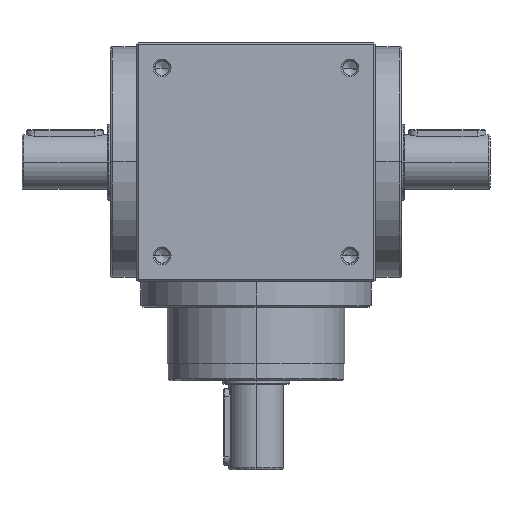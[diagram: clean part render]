
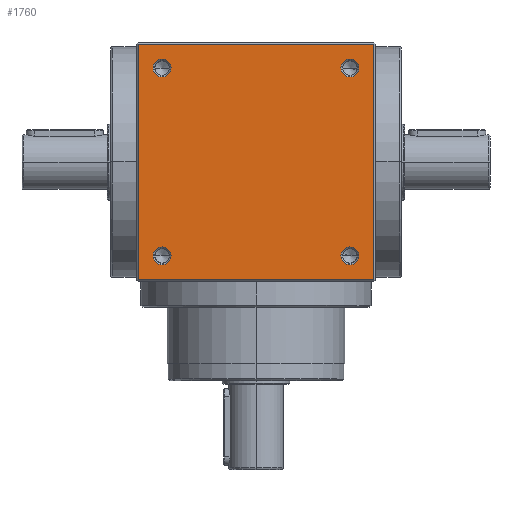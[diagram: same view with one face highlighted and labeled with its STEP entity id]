
A CAD part, top view. The second image highlights one B-rep face of the part: STEP entity #1760.
In plain terms, the highlighted planar face has unit normal (0, 0, 1).
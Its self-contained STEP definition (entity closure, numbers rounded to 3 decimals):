
#70 = EDGE_CURVE ( 'NONE', #9648, #7187, #508, .T. ) ;
#120 = EDGE_CURVE ( 'NONE', #9140, #10129, #7684, .T. ) ;
#138 = AXIS2_PLACEMENT_3D ( 'NONE', #9681, #3133, #10357 ) ;
#164 = DIRECTION ( 'NONE',  ( -1., 0., 0. ) ) ;
#189 = CARTESIAN_POINT ( 'NONE',  ( 69., 69., 70. ) ) ;
#233 = CIRCLE ( 'NONE', #8392, 5.25 ) ;
#304 = EDGE_LOOP ( 'NONE', ( #4459, #3846 ) ) ;
#321 = CARTESIAN_POINT ( 'NONE',  ( -69., -69., 70. ) ) ;
#342 = FACE_BOUND ( 'NONE', #304, .T. ) ;
#411 = CIRCLE ( 'NONE', #3988, 5.25 ) ;
#493 = AXIS2_PLACEMENT_3D ( 'NONE', #1849, #2549, #2483 ) ;
#508 = CIRCLE ( 'NONE', #6053, 5.25 ) ;
#513 = LINE ( 'NONE', #6973, #646 ) ;
#521 = ORIENTED_EDGE ( 'NONE', *, *, #3351, .T. ) ;
#568 = DIRECTION ( 'NONE',  ( 0., -1., 0. ) ) ;
#623 = AXIS2_PLACEMENT_3D ( 'NONE', #890, #2510, #1735 ) ;
#646 = VECTOR ( 'NONE', #568, 1000. ) ;
#654 = EDGE_LOOP ( 'NONE', ( #4299, #10071 ) ) ;
#666 = VECTOR ( 'NONE', #8970, 1000. ) ;
#779 = VERTEX_POINT ( 'NONE', #7558 ) ;
#824 = CIRCLE ( 'NONE', #6396, 5.25 ) ;
#890 = CARTESIAN_POINT ( 'NONE',  ( 0., 0., 70. ) ) ;
#951 = DIRECTION ( 'NONE',  ( -1., 0., 0. ) ) ;
#1065 = DIRECTION ( 'NONE',  ( 0., 0., -1. ) ) ;
#1279 = VECTOR ( 'NONE', #3611, 1000. ) ;
#1415 = DIRECTION ( 'NONE',  ( -1., 0., 0. ) ) ;
#1593 = EDGE_CURVE ( 'NONE', #10129, #9140, #4149, .T. ) ;
#1656 = ORIENTED_EDGE ( 'NONE', *, *, #4278, .T. ) ;
#1735 = DIRECTION ( 'NONE',  ( -1., 0., 0. ) ) ;
#1760 = ADVANCED_FACE ( 'NONE', ( #7394, #3910, #9845, #7646, #342 ), #9743, .F. ) ;
#1849 = CARTESIAN_POINT ( 'NONE',  ( -55., -55., 70. ) ) ;
#1940 = CARTESIAN_POINT ( 'NONE',  ( -60.25, -55., 70. ) ) ;
#2207 = EDGE_LOOP ( 'NONE', ( #8191, #9491, #1656, #4601 ) ) ;
#2268 = AXIS2_PLACEMENT_3D ( 'NONE', #8125, #4128, #4190 ) ;
#2483 = DIRECTION ( 'NONE',  ( -1., 0., 0. ) ) ;
#2493 = DIRECTION ( 'NONE',  ( -1., 0., 0. ) ) ;
#2510 = DIRECTION ( 'NONE',  ( 0., 0., -1. ) ) ;
#2530 = ORIENTED_EDGE ( 'NONE', *, *, #2875, .T. ) ;
#2534 = CARTESIAN_POINT ( 'NONE',  ( 55., 55., 70. ) ) ;
#2549 = DIRECTION ( 'NONE',  ( 0., 0., -1. ) ) ;
#2580 = VERTEX_POINT ( 'NONE', #189 ) ;
#2875 = EDGE_CURVE ( 'NONE', #5544, #7193, #4898, .T. ) ;
#3078 = VERTEX_POINT ( 'NONE', #6044 ) ;
#3133 = DIRECTION ( 'NONE',  ( 0., 0., -1. ) ) ;
#3137 = CARTESIAN_POINT ( 'NONE',  ( -49.75, 55., 70. ) ) ;
#3261 = CARTESIAN_POINT ( 'NONE',  ( 55., -55., 70. ) ) ;
#3351 = EDGE_CURVE ( 'NONE', #779, #6131, #824, .T. ) ;
#3611 = DIRECTION ( 'NONE',  ( 1., 0., 0. ) ) ;
#3617 = DIRECTION ( 'NONE',  ( 0., 0., -1. ) ) ;
#3846 = ORIENTED_EDGE ( 'NONE', *, *, #70, .T. ) ;
#3910 = FACE_BOUND ( 'NONE', #654, .T. ) ;
#3988 = AXIS2_PLACEMENT_3D ( 'NONE', #4967, #3617, #164 ) ;
#4128 = DIRECTION ( 'NONE',  ( 0., 0., -1. ) ) ;
#4149 = CIRCLE ( 'NONE', #138, 5.25 ) ;
#4190 = DIRECTION ( 'NONE',  ( -1., 0., 0. ) ) ;
#4278 = EDGE_CURVE ( 'NONE', #6872, #2580, #9253, .T. ) ;
#4299 = ORIENTED_EDGE ( 'NONE', *, *, #1593, .T. ) ;
#4459 = ORIENTED_EDGE ( 'NONE', *, *, #6889, .T. ) ;
#4548 = EDGE_CURVE ( 'NONE', #10200, #6872, #9103, .T. ) ;
#4601 = ORIENTED_EDGE ( 'NONE', *, *, #5248, .T. ) ;
#4708 = CARTESIAN_POINT ( 'NONE',  ( -55., 55., 70. ) ) ;
#4826 = CARTESIAN_POINT ( 'NONE',  ( 69., 0., 70. ) ) ;
#4898 = CIRCLE ( 'NONE', #493, 5.25 ) ;
#4967 = CARTESIAN_POINT ( 'NONE',  ( -55., 55., 70. ) ) ;
#4994 = EDGE_CURVE ( 'NONE', #6131, #779, #233, .T. ) ;
#5040 = CARTESIAN_POINT ( 'NONE',  ( -60.25, 55., 70. ) ) ;
#5248 = EDGE_CURVE ( 'NONE', #2580, #3078, #7154, .T. ) ;
#5335 = ORIENTED_EDGE ( 'NONE', *, *, #5989, .T. ) ;
#5544 = VERTEX_POINT ( 'NONE', #1940 ) ;
#5719 = DIRECTION ( 'NONE',  ( 0., 0., -1. ) ) ;
#5989 = EDGE_CURVE ( 'NONE', #7193, #5544, #9961, .T. ) ;
#6044 = CARTESIAN_POINT ( 'NONE',  ( -69., 69., 70. ) ) ;
#6053 = AXIS2_PLACEMENT_3D ( 'NONE', #4708, #6312, #7630 ) ;
#6131 = VERTEX_POINT ( 'NONE', #7724 ) ;
#6137 = CARTESIAN_POINT ( 'NONE',  ( 49.75, -55., 70. ) ) ;
#6177 = EDGE_LOOP ( 'NONE', ( #521, #9272 ) ) ;
#6246 = CARTESIAN_POINT ( 'NONE',  ( 0., 69., 70. ) ) ;
#6312 = DIRECTION ( 'NONE',  ( 0., 0., -1. ) ) ;
#6396 = AXIS2_PLACEMENT_3D ( 'NONE', #2534, #6557, #951 ) ;
#6557 = DIRECTION ( 'NONE',  ( 0., 0., -1. ) ) ;
#6754 = CARTESIAN_POINT ( 'NONE',  ( 0., -69., 70. ) ) ;
#6872 = VERTEX_POINT ( 'NONE', #9623 ) ;
#6889 = EDGE_CURVE ( 'NONE', #7187, #9648, #411, .T. ) ;
#6973 = CARTESIAN_POINT ( 'NONE',  ( -69., 0., 70. ) ) ;
#7154 = LINE ( 'NONE', #6246, #7781 ) ;
#7187 = VERTEX_POINT ( 'NONE', #3137 ) ;
#7193 = VERTEX_POINT ( 'NONE', #10391 ) ;
#7394 = FACE_OUTER_BOUND ( 'NONE', #2207, .T. ) ;
#7558 = CARTESIAN_POINT ( 'NONE',  ( 60.25, 55., 70. ) ) ;
#7630 = DIRECTION ( 'NONE',  ( -1., 0., 0. ) ) ;
#7646 = FACE_BOUND ( 'NONE', #6177, .T. ) ;
#7684 = CIRCLE ( 'NONE', #9878, 5.25 ) ;
#7724 = CARTESIAN_POINT ( 'NONE',  ( 49.75, 55., 70. ) ) ;
#7781 = VECTOR ( 'NONE', #1415, 1000. ) ;
#7842 = EDGE_CURVE ( 'NONE', #3078, #10200, #513, .T. ) ;
#8125 = CARTESIAN_POINT ( 'NONE',  ( -55., -55., 70. ) ) ;
#8191 = ORIENTED_EDGE ( 'NONE', *, *, #7842, .T. ) ;
#8265 = CARTESIAN_POINT ( 'NONE',  ( 60.25, -55., 70. ) ) ;
#8392 = AXIS2_PLACEMENT_3D ( 'NONE', #9011, #1065, #9111 ) ;
#8970 = DIRECTION ( 'NONE',  ( 0., 1., 0. ) ) ;
#8988 = EDGE_LOOP ( 'NONE', ( #5335, #2530 ) ) ;
#9011 = CARTESIAN_POINT ( 'NONE',  ( 55., 55., 70. ) ) ;
#9103 = LINE ( 'NONE', #6754, #1279 ) ;
#9111 = DIRECTION ( 'NONE',  ( -1., 0., 0. ) ) ;
#9140 = VERTEX_POINT ( 'NONE', #6137 ) ;
#9253 = LINE ( 'NONE', #4826, #666 ) ;
#9272 = ORIENTED_EDGE ( 'NONE', *, *, #4994, .T. ) ;
#9491 = ORIENTED_EDGE ( 'NONE', *, *, #4548, .T. ) ;
#9623 = CARTESIAN_POINT ( 'NONE',  ( 69., -69., 70. ) ) ;
#9648 = VERTEX_POINT ( 'NONE', #5040 ) ;
#9681 = CARTESIAN_POINT ( 'NONE',  ( 55., -55., 70. ) ) ;
#9743 = PLANE ( 'NONE',  #623 ) ;
#9845 = FACE_BOUND ( 'NONE', #8988, .T. ) ;
#9878 = AXIS2_PLACEMENT_3D ( 'NONE', #3261, #5719, #2493 ) ;
#9961 = CIRCLE ( 'NONE', #2268, 5.25 ) ;
#10071 = ORIENTED_EDGE ( 'NONE', *, *, #120, .T. ) ;
#10129 = VERTEX_POINT ( 'NONE', #8265 ) ;
#10200 = VERTEX_POINT ( 'NONE', #321 ) ;
#10357 = DIRECTION ( 'NONE',  ( -1., 0., 0. ) ) ;
#10391 = CARTESIAN_POINT ( 'NONE',  ( -49.75, -55., 70. ) ) ;
